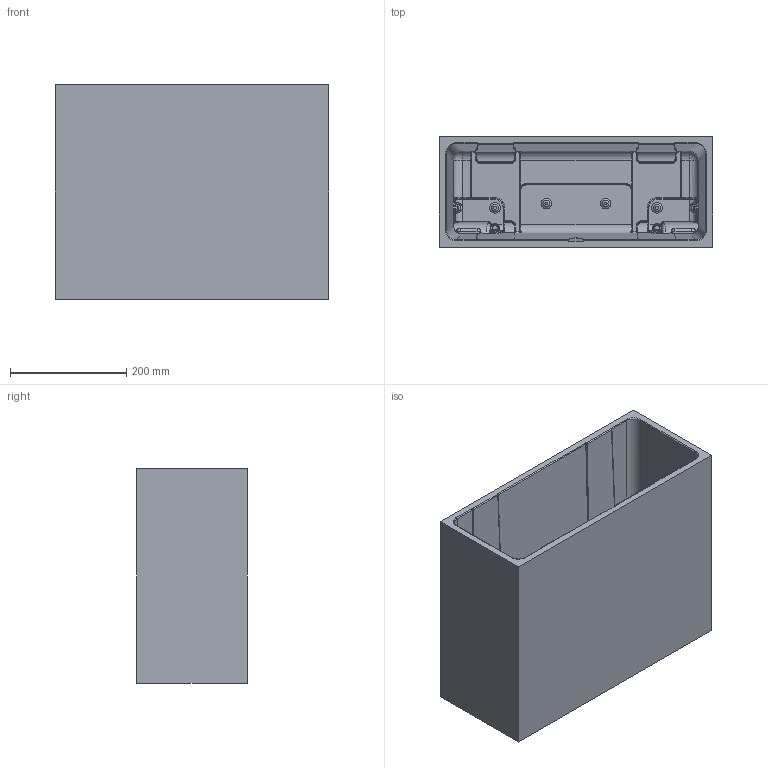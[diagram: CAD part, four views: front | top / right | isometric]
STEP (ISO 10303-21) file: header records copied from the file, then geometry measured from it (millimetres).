
FILE_DESCRIPTION( ( 'Unknown' ), '1' );
FILE_NAME( 'L:/P-Dwgs/P111/iM Case Assemblies/2435/Storm Case iM2435 internal_tub Files/2435-base_internal_tub.stp', 'Unknown', ( 'Unknown' ), ( 'Unknown' ), 'PSStep 16.0.42', 'Unknown', ' ' );
FILE_SCHEMA( ( 'AUTOMOTIVE_DESIGN { 1 0 10303 214 1 1 1 1 }' ) );
Length unit declared in the file: millimetre
Products named in the file (1): 1
Bounding box: 469.9 x 190.5 x 368.3 mm (x, y, z)
Volume: 10050742.1 mm3; surface area: 1052099.6 mm2
Topology: 1 solids, 1 shells, 492 faces, 1161 edges, 642 vertices
Faces by surface type: bspline 218, cylinder 171, plane 72, sphere 10, torus 10, cone 9, offset 2
Entity records: 44241 total; most frequent: CARTESIAN_POINT 30392, ORIENTED_EDGE 2218, DIRECTION 1939, EDGE_CURVE 1109, AXIS2_PLACEMENT_3D 795, VERTEX_POINT 636, EDGE_LOOP 509, FACE_OUTER_BOUND 500
